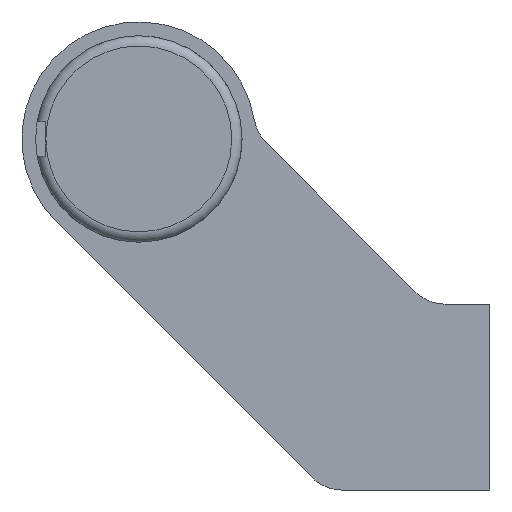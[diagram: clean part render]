
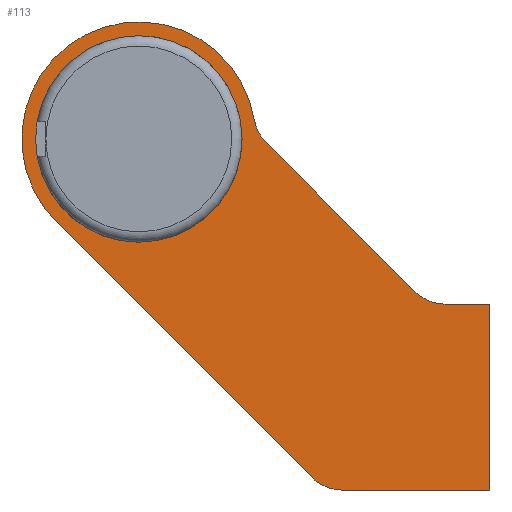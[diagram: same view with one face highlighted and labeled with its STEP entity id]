
A CAD part, left-side view. The second image highlights one B-rep face of the part: STEP entity #113.
In plain terms, the highlighted planar face has unit normal (-1, 0, 0).
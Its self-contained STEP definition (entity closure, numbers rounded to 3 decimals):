
#113 = ADVANCED_FACE( '', ( #212, #213 ), #214, .F. );
#212 = FACE_BOUND( '', #325, .T. );
#213 = FACE_OUTER_BOUND( '', #326, .T. );
#214 = PLANE( '', #327 );
#325 = EDGE_LOOP( '', ( #621 ) );
#326 = EDGE_LOOP( '', ( #622, #623, #624, #625, #626, #627, #628, #629, #630 ) );
#327 = AXIS2_PLACEMENT_3D( '', #631, #632, #633 );
#621 = ORIENTED_EDGE( '', *, *, #734, .T. );
#622 = ORIENTED_EDGE( '', *, *, #761, .F. );
#623 = ORIENTED_EDGE( '', *, *, #735, .F. );
#624 = ORIENTED_EDGE( '', *, *, #739, .F. );
#625 = ORIENTED_EDGE( '', *, *, #743, .F. );
#626 = ORIENTED_EDGE( '', *, *, #746, .F. );
#627 = ORIENTED_EDGE( '', *, *, #749, .T. );
#628 = ORIENTED_EDGE( '', *, *, #752, .F. );
#629 = ORIENTED_EDGE( '', *, *, #755, .T. );
#630 = ORIENTED_EDGE( '', *, *, #758, .F. );
#631 = CARTESIAN_POINT( '', ( -108.5, 51., 37.5 ) );
#632 = DIRECTION( '', ( 1., 0., 0. ) );
#633 = DIRECTION( '', ( 0., 0., -1. ) );
#734 = EDGE_CURVE( '', #866, #866, #867, .T. );
#735 = EDGE_CURVE( '', #868, #869, #870, .T. );
#739 = EDGE_CURVE( '', #876, #868, #877, .T. );
#743 = EDGE_CURVE( '', #883, #876, #884, .T. );
#746 = EDGE_CURVE( '', #888, #883, #889, .T. );
#749 = EDGE_CURVE( '', #888, #893, #894, .T. );
#752 = EDGE_CURVE( '', #898, #893, #899, .T. );
#755 = EDGE_CURVE( '', #898, #903, #904, .T. );
#758 = EDGE_CURVE( '', #908, #903, #909, .T. );
#761 = EDGE_CURVE( '', #869, #908, #913, .T. );
#866 = VERTEX_POINT( '', #1114 );
#867 = CIRCLE( '', #1115, 15. );
#868 = VERTEX_POINT( '', #1116 );
#869 = VERTEX_POINT( '', #1117 );
#870 = CIRCLE( '', #1118, 6. );
#876 = VERTEX_POINT( '', #1126 );
#877 = LINE( '', #1127, #1128 );
#883 = VERTEX_POINT( '', #1136 );
#884 = LINE( '', #1137, #1138 );
#888 = VERTEX_POINT( '', #1144 );
#889 = LINE( '', #1145, #1146 );
#893 = VERTEX_POINT( '', #1152 );
#894 = CIRCLE( '', #1153, 6. );
#898 = VERTEX_POINT( '', #1158 );
#899 = LINE( '', #1159, #1160 );
#903 = VERTEX_POINT( '', #1166 );
#904 = CIRCLE( '', #1167, 6. );
#908 = VERTEX_POINT( '', #1172 );
#909 = CIRCLE( '', #1173, 17. );
#913 = LINE( '', #1178, #1179 );
#1114 = CARTESIAN_POINT( '', ( -108.5, 51., 22.5 ) );
#1115 = AXIS2_PLACEMENT_3D( '', #1285, #1286, #1287 );
#1116 = CARTESIAN_POINT( '', ( -108.5, 21.556, -13.5 ) );
#1117 = CARTESIAN_POINT( '', ( -108.5, 25.799, -11.743 ) );
#1118 = AXIS2_PLACEMENT_3D( '', #1288, #1289, #1290 );
#1126 = CARTESIAN_POINT( '', ( -108.5, 0., -13.5 ) );
#1127 = CARTESIAN_POINT( '', ( -108.5, 0., -13.5 ) );
#1128 = VECTOR( '', #1296, 1000. );
#1136 = CARTESIAN_POINT( '', ( -108.5, 0., 13.5 ) );
#1137 = CARTESIAN_POINT( '', ( -108.5, 0., 13.5 ) );
#1138 = VECTOR( '', #1302, 1000. );
#1144 = CARTESIAN_POINT( '', ( -108.5, 6.515, 13.5 ) );
#1145 = CARTESIAN_POINT( '', ( -108.5, 6.515, 13.5 ) );
#1146 = VECTOR( '', #1305, 1000. );
#1152 = CARTESIAN_POINT( '', ( -108.5, 10.757, 15.257 ) );
#1153 = AXIS2_PLACEMENT_3D( '', #1308, #1309, #1310 );
#1158 = CARTESIAN_POINT( '', ( -108.5, 32.559, 37.059 ) );
#1159 = CARTESIAN_POINT( '', ( -108.5, 32.559, 37.059 ) );
#1160 = VECTOR( '', #1315, 1000. );
#1166 = CARTESIAN_POINT( '', ( -108.5, 34.234, 40.31 ) );
#1167 = AXIS2_PLACEMENT_3D( '', #1318, #1319, #1320 );
#1172 = CARTESIAN_POINT( '', ( -108.5, 63.021, 25.479 ) );
#1173 = AXIS2_PLACEMENT_3D( '', #1325, #1326, #1327 );
#1178 = CARTESIAN_POINT( '', ( -108.5, 25.799, -11.743 ) );
#1179 = VECTOR( '', #1332, 1000. );
#1285 = CARTESIAN_POINT( '', ( -108.5, 51., 37.5 ) );
#1286 = DIRECTION( '', ( 1., 0., 0. ) );
#1287 = DIRECTION( '', ( 0., 0., -1. ) );
#1288 = CARTESIAN_POINT( '', ( -108.5, 21.556, -7.5 ) );
#1289 = DIRECTION( '', ( 1., 0., 0. ) );
#1290 = DIRECTION( '', ( 0., 0., -1. ) );
#1296 = DIRECTION( '', ( 0., 1., 0. ) );
#1302 = DIRECTION( '', ( 0., 0., -1. ) );
#1305 = DIRECTION( '', ( 0., -1., 0. ) );
#1308 = CARTESIAN_POINT( '', ( -108.5, 6.515, 19.5 ) );
#1309 = DIRECTION( '', ( 1., 0., 0. ) );
#1310 = DIRECTION( '', ( 0., 0., -1. ) );
#1315 = DIRECTION( '', ( 0., -0.707, -0.707 ) );
#1318 = CARTESIAN_POINT( '', ( -108.5, 28.316, 41.302 ) );
#1319 = DIRECTION( '', ( 1., 0., 0. ) );
#1320 = DIRECTION( '', ( 0., 0., -1. ) );
#1325 = CARTESIAN_POINT( '', ( -108.5, 51., 37.5 ) );
#1326 = DIRECTION( '', ( 1., 0., 0. ) );
#1327 = DIRECTION( '', ( 0., 0., -1. ) );
#1332 = DIRECTION( '', ( 0., 0.707, 0.707 ) );
